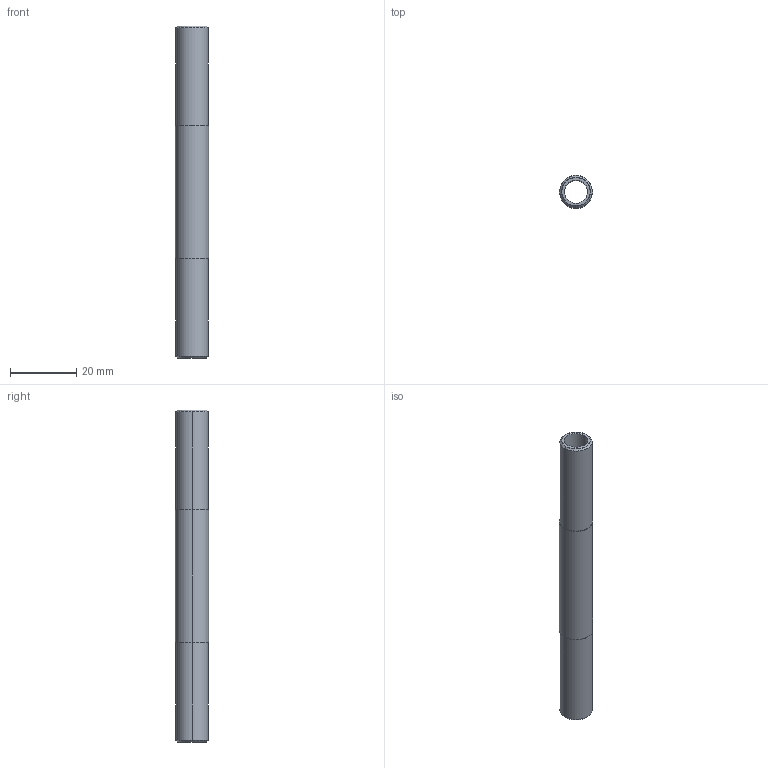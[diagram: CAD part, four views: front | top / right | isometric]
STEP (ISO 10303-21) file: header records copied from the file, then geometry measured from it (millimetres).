
FILE_DESCRIPTION (( 'STEP AP214' ), '1' );
FILE_NAME ('BruyRubio_BR88_-1_8_GAS_x_100.STEP', '2019-12-17T11:06:03', ( '' ), ( '' ), 'SwSTEP 2.0', 'SolidWorks 2017', '' );
FILE_SCHEMA (( 'AUTOMOTIVE_DESIGN' ));
Length unit declared in the file: millimetre
Products named in the file (1): BruyRubio_BR88_-1_8_GAS_x_100
Bounding box: 10 x 10 x 100 mm (x, y, z)
Volume: 3745.3 mm3; surface area: 8645.1 mm2
Topology: 3 solids, 3 shells, 28 faces, 56 edges, 36 vertices
Faces by surface type: cylinder 16, plane 8, cone 4
Entity records: 1116 total; most frequent: DIRECTION 150, CARTESIAN_POINT 121, ORIENTED_EDGE 112, AXIS2_PLACEMENT_3D 65, EDGE_CURVE 56, CIRCLE 36, EDGE_LOOP 36, VERTEX_POINT 36
